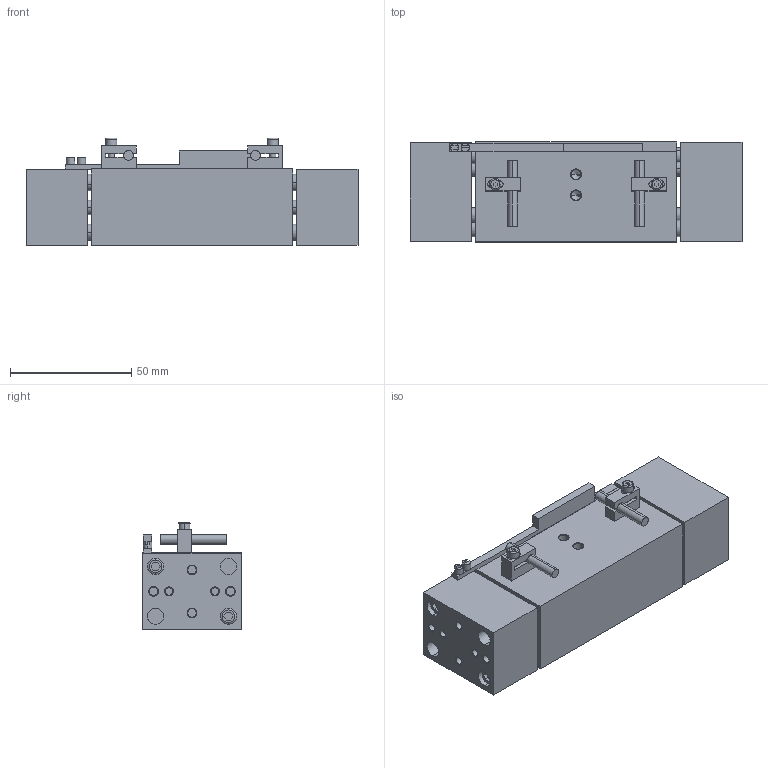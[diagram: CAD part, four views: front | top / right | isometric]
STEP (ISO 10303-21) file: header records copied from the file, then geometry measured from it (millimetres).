
FILE_DESCRIPTION (( 'STEP AP203' ), '1' );
FILE_NAME ('AGW-250-3-closed.STEP', '2020-05-15T18:17:23', ( 'cad' ), ( '' ), 'SwSTEP 2.0', 'SolidWorks 2017', '' );
FILE_SCHEMA (( 'CONFIG_CONTROL_DESIGN' ));
Length unit declared in the file: inch
Products named in the file (8): AGW-250 GUIDE ROD; AGW-250 SENSOR FLAG; AGW-250-3-closed; AGW-250 BODY; AGW-250 TOOL PLATE; AGW-250 SENSOR BLOCK; AGW-250 SENSOR; AGW-250 PROD
Assembly tree (16 placements, depth 2):
  AGW-250-3-closed
    AGW-250 BODY
    AGW-250 TOOL PLATE  x2
    AGW-250 SENSOR BLOCK  x2
    AGW-250 SENSOR  x2
    AGW-250 PROD  x4
    AGW-250 GUIDE ROD  x4
    AGW-250 SENSOR FLAG
Bounding box: 137.16 x 41.27 x 44.45 mm (x, y, z)
Volume: 165005.6 mm3; surface area: 58666.2 mm2
Topology: 20 solids, 20 shells, 371 faces, 893 edges, 558 vertices
Faces by surface type: plane 165, cylinder 134, cone 60, torus 12
Entity records: 8085 total; most frequent: DIRECTION 1285, CARTESIAN_POINT 1265, ORIENTED_EDGE 1114, EDGE_CURVE 557, AXIS2_PLACEMENT_3D 480, VERTEX_POINT 352, VECTOR 325, LINE 325
